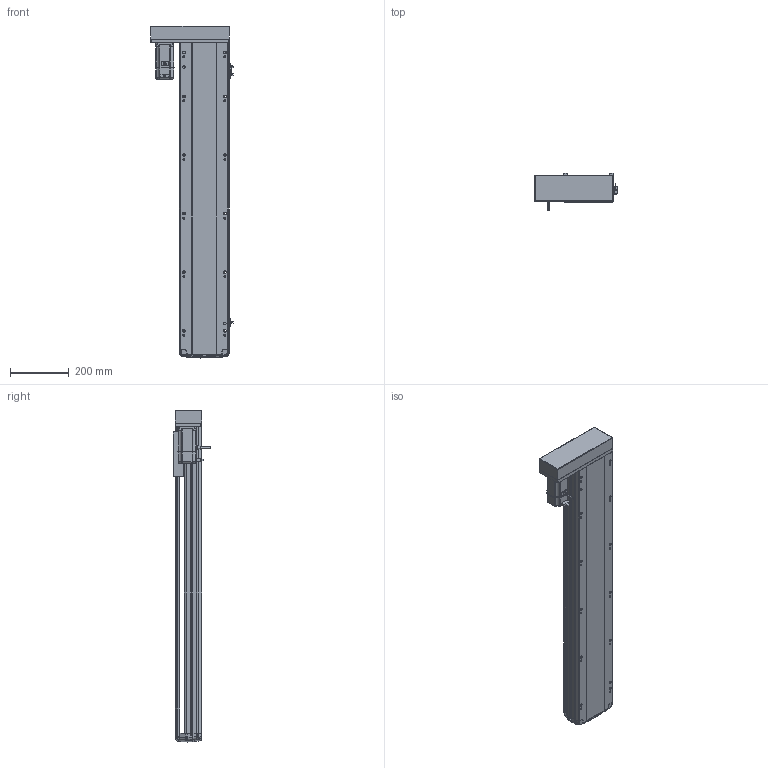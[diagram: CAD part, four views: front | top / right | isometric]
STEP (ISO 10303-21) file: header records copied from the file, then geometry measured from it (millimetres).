
FILE_DESCRIPTION (( 'STEP AP214' ), '1' );
FILE_NAME ('RTH17-XX-850-R-M40-C4.STEP', '2025-10-24T08:57:22', ( '' ), ( '' ), 'SwSTEP 2.0', 'SolidWorks 2018', '' );
FILE_SCHEMA (( 'AUTOMOTIVE_DESIGN' ));
Length unit declared in the file: millimetre
Products named in the file (10): N_OMRON EE-SX672 換覜ん^RTH17-XX-XX-R-M40-C4ㄗ源最宒ㄘ; N_RTH17-M-007上盖^RTH17-XX-XX-R-M40-C4（方程式）; N_RTH17-L-018盖子^RTH17-XX-XX-R-M40-C4（方程式）; N_RTH17-M-011底座^RTH17-XX-XX-R-M40-C4（方程式）; N_RTH17-GY-001P^RTH17-XX-XX-R-M40-C4（方程式）; N_RTH17-L-008-P40电机安装板左转折^RTH17-XX-XX-R-M40-C4（方程式）; RTH17-XX-850-R-M40-C4; N_RTH17-E-004丝杆螺母连接座^RTH17-XX-XX-R-M40-C4（方程式）; N_M40^RTH17-XX-XX-R-M40-C4（方程式）; N_RTH-BL-012 感应片(外置)^RTH17-XX-XX-R-M40-C4（方程式）
Assembly tree (11 placements, depth 2):
  RTH17-XX-850-R-M40-C4
    N_RTH17-M-011底座^RTH17-XX-XX-R-M40-C4（方程式）
    N_RTH17-M-007上盖^RTH17-XX-XX-R-M40-C4（方程式）
    N_M40^RTH17-XX-XX-R-M40-C4（方程式）
    N_OMRON EE-SX672 換覜ん^RTH17-XX-XX-R-M40-C4ㄗ源最宒ㄘ  x3
    N_RTH-BL-012 感应片(外置)^RTH17-XX-XX-R-M40-C4（方程式）
    N_RTH17-L-008-P40电机安装板左转折^RTH17-XX-XX-R-M40-C4（方程式）
    N_RTH17-L-018盖子^RTH17-XX-XX-R-M40-C4（方程式）
    N_RTH17-E-004丝杆螺母连接座^RTH17-XX-XX-R-M40-C4（方程式）
    N_RTH17-GY-001P^RTH17-XX-XX-R-M40-C4（方程式）
Bounding box: 280.5 x 127 x 1132.99 mm (x, y, z)
Volume: 9827230.4 mm3; surface area: 1258200.9 mm2
Topology: 13 solids, 15 shells, 1663 faces, 4629 edges, 3018 vertices
Faces by surface type: plane 835, cylinder 461, bspline 330, cone 28, torus 9
Entity records: 48562 total; most frequent: CARTESIAN_POINT 19635, ORIENTED_EDGE 6282, DIRECTION 5179, EDGE_CURVE 3145, VERTEX_POINT 2054, VECTOR 1765, LINE 1765, AXIS2_PLACEMENT_3D 1707
